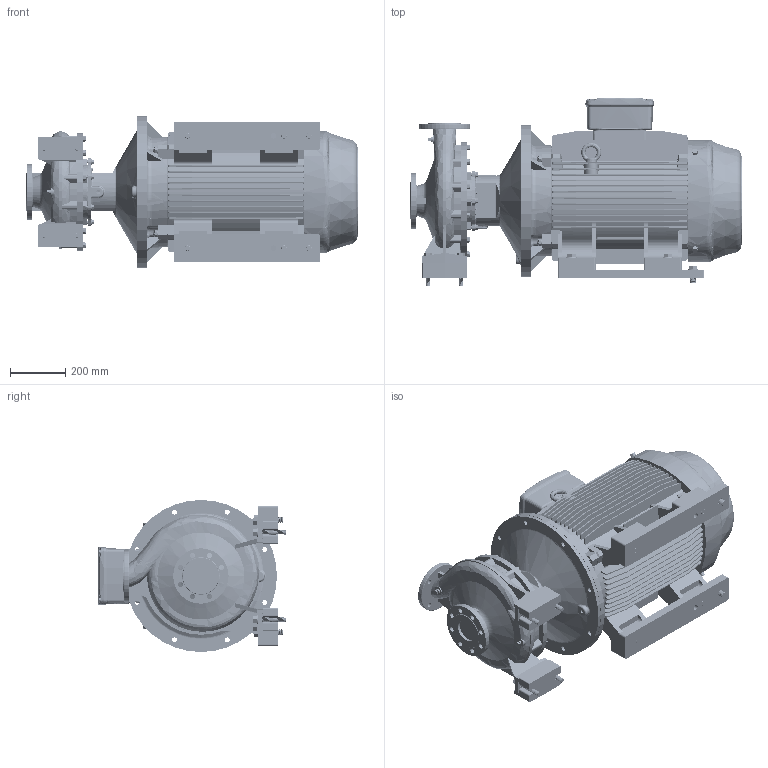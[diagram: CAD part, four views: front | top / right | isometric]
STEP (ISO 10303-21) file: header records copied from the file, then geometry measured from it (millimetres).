
FILE_DESCRIPTION (( 'STEP AP214' ), '1' );
FILE_NAME ('GSD2 65-315_75_(250SM)_W21.STEP', '2026-07-08T06:29:15', ( '' ), ( '' ), 'SwSTEP 2.0', 'SolidWorks 2024', '' );
FILE_SCHEMA (( 'AUTOMOTIVE_DESIGN' ));
Length unit declared in the file: millimetre
Products named in the file (13): 65-315-250S_M_ﾃﾞﾌｫﾙﾄ; Parametric Flat Washer_M20; GSD2  65-315_75_(250SM)_W21; CGS11-5321_2_3_4_5_CGS11-5324; Parametric bolt and washer_SFT-A417B; Parametric Flat Washer_M16; 100x30 - CGSDA-5291; Parametric bolt_SFT-A417B; 250S_M2P IE3_W21T_B35; CGS11-5321_2_3_4_5_CGS11-5322; A407B Bolt_407; Parametric Stud Bolt_SFSK-AB377; Parametric Nut_M16
Assembly tree (30 placements, depth 3):
  GSD2  65-315_75_(250SM)_W21
    65-315-250S_M_ﾃﾞﾌｫﾙﾄ
    250S_M2P IE3_W21T_B35
    CGS11-5321_2_3_4_5_CGS11-5322  x2
    CGS11-5321_2_3_4_5_CGS11-5324  x2
    100x30 - CGSDA-5291  x2
    Parametric Stud Bolt_SFSK-AB377  x4
    Parametric Flat Washer_M16  x4
    Parametric Nut_M16  x4
    A407B Bolt_407  x2
    Parametric Flat Washer_M20  x2
    Parametric bolt and washer_SFT-A417B  x4
      Parametric bolt_SFT-A417B
      Parametric Flat Washer_M20
Bounding box: 1200.5 x 681.5 x 550 mm (x, y, z)
Volume: 144787757.8 mm3; surface area: 5709330.6 mm2
Topology: 33 solids, 38 shells, 4842 faces, 12904 edges, 8265 vertices
Faces by surface type: cylinder 1933, plane 1747, cone 541, torus 313, bspline 292, sphere 16
Entity records: 180351 total; most frequent: CARTESIAN_POINT 87475, ORIENTED_EDGE 20556, DIRECTION 18262, EDGE_CURVE 10278, AXIS2_PLACEMENT_3D 6713, VERTEX_POINT 6555, LINE 4836, VECTOR 4836
